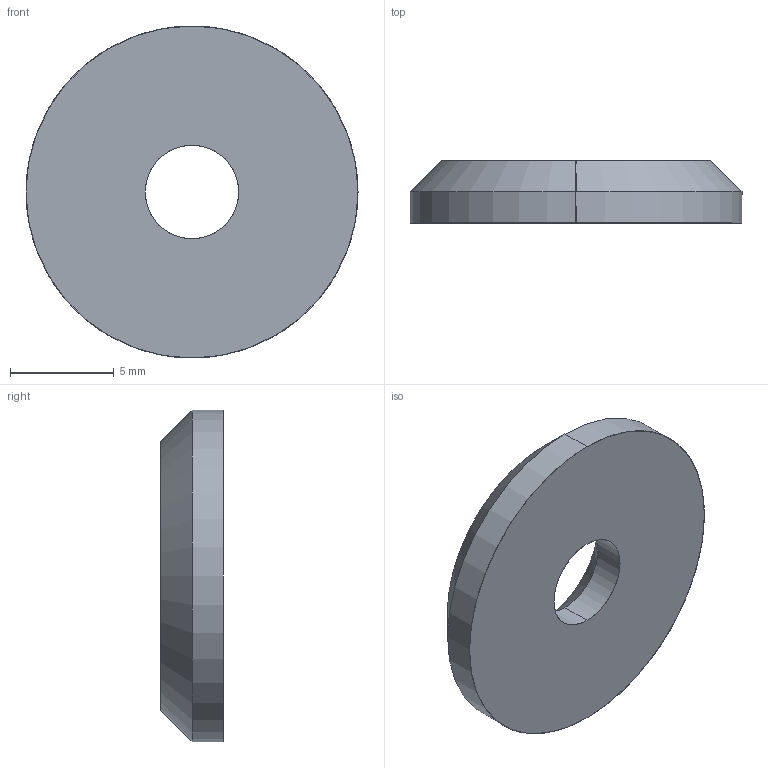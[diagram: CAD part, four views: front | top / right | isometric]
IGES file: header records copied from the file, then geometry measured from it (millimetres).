
Start section: SolidWorks IGES file using analytic representation for surfaces
Global section: file name: C:\Documents and Settings\IANO\Desktop\Temp File\Process pending\EXISTING\36720_v2\36720_v2_20170629_IGES\36720.W0516.igs; native system: SolidWorks 2009; preprocessor: SolidWorks 2009; author: IANO; date: 170627.111059; units: millimetre
Bounding box: 16 x 3 x 16 mm (x, y, z)
Surface area: 506.9 mm2 (no closed solid volume)
Topology: 0 solids, 0 shells, 10 faces, 160 edges, 160 vertices
Faces by surface type: revolution 8, bspline 2
